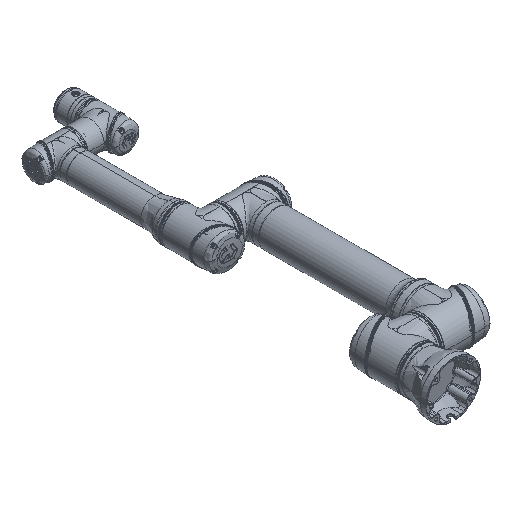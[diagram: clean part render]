
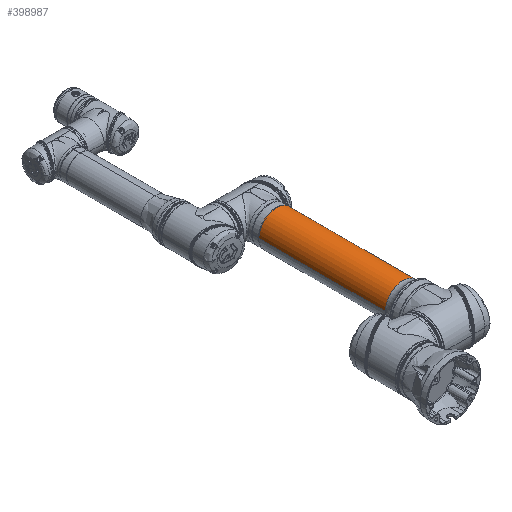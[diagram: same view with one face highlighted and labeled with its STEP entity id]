
A CAD part, isometric view. The second image highlights one B-rep face of the part: STEP entity #398987.
In plain terms, the highlighted cylindrical face has radius 48.5 mm (diameter 97 mm), a partial arc.
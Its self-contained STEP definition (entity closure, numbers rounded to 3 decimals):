
#44470 = CARTESIAN_POINT ( 'NONE',  ( 62.9, 0., -141. ) ) ;
#85947 = DIRECTION ( 'NONE',  ( 0., 0., 1. ) ) ;
#88571 = CARTESIAN_POINT ( 'NONE',  ( 116.698, 0., -189.5 ) ) ;
#92556 = EDGE_CURVE ( 'NONE', #229608, #375885, #174142, .T. ) ;
#95924 = EDGE_CURVE ( 'NONE', #229608, #774337, #563112, .T. ) ;
#107502 = CARTESIAN_POINT ( 'NONE',  ( 116.698, 0., -92.5 ) ) ;
#119075 = VERTEX_POINT ( 'NONE', #107502 ) ;
#121406 = DIRECTION ( 'NONE',  ( -1., 0., 0. ) ) ;
#127596 = ORIENTED_EDGE ( 'NONE', *, *, #92556, .F. ) ;
#136970 = CIRCLE ( 'NONE', #327559, 48.5 ) ;
#137536 = CARTESIAN_POINT ( 'NONE',  ( 463.7, 0., -189.5 ) ) ;
#144036 = AXIS2_PLACEMENT_3D ( 'NONE', #411610, #121406, #609996 ) ;
#174142 = LINE ( 'NONE', #447798, #718395 ) ;
#174636 = CARTESIAN_POINT ( 'NONE',  ( 62.9, 0., -92.5 ) ) ;
#182138 = FACE_OUTER_BOUND ( 'NONE', #443968, .T. ) ;
#187981 = AXIS2_PLACEMENT_3D ( 'NONE', #44470, #424526, #223256 ) ;
#208962 = DIRECTION ( 'NONE',  ( 1., 0., 0. ) ) ;
#223256 = DIRECTION ( 'NONE',  ( 0., 0., 1. ) ) ;
#229608 = VERTEX_POINT ( 'NONE', #137536 ) ;
#245706 = CYLINDRICAL_SURFACE ( 'NONE', #187981, 48.5 ) ;
#270718 = EDGE_CURVE ( 'NONE', #119075, #375885, #136970, .T. ) ;
#327559 = AXIS2_PLACEMENT_3D ( 'NONE', #689652, #208962, #85947 ) ;
#354588 = EDGE_CURVE ( 'NONE', #774337, #119075, #603617, .T. ) ;
#375885 = VERTEX_POINT ( 'NONE', #88571 ) ;
#398987 = ADVANCED_FACE ( 'NONE', ( #182138 ), #245706, .T. ) ;
#411610 = CARTESIAN_POINT ( 'NONE',  ( 463.7, 0., -141. ) ) ;
#424526 = DIRECTION ( 'NONE',  ( -1., 0., 0. ) ) ;
#443968 = EDGE_LOOP ( 'NONE', ( #127596, #733018, #627207, #500351 ) ) ;
#447798 = CARTESIAN_POINT ( 'NONE',  ( 62.9, 0., -189.5 ) ) ;
#480530 = DIRECTION ( 'NONE',  ( -1., 0., 0. ) ) ;
#500351 = ORIENTED_EDGE ( 'NONE', *, *, #270718, .T. ) ;
#563112 = CIRCLE ( 'NONE', #144036, 48.5 ) ;
#603617 = LINE ( 'NONE', #174636, #752342 ) ;
#609996 = DIRECTION ( 'NONE',  ( 0., 0., 1. ) ) ;
#627207 = ORIENTED_EDGE ( 'NONE', *, *, #354588, .T. ) ;
#689652 = CARTESIAN_POINT ( 'NONE',  ( 116.698, 0., -141. ) ) ;
#718395 = VECTOR ( 'NONE', #749652, 1000. ) ;
#733018 = ORIENTED_EDGE ( 'NONE', *, *, #95924, .T. ) ;
#742237 = CARTESIAN_POINT ( 'NONE',  ( 463.7, 0., -92.5 ) ) ;
#749652 = DIRECTION ( 'NONE',  ( -1., 0., 0. ) ) ;
#752342 = VECTOR ( 'NONE', #480530, 1000. ) ;
#774337 = VERTEX_POINT ( 'NONE', #742237 ) ;
